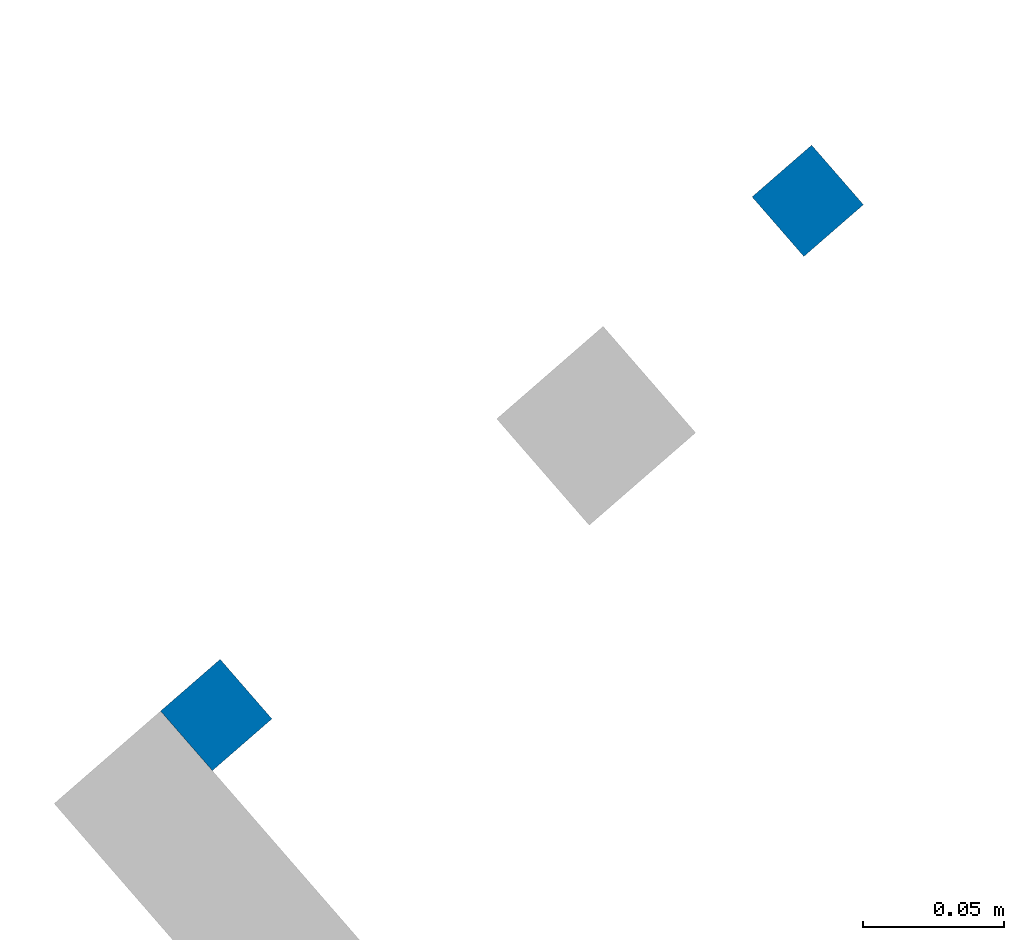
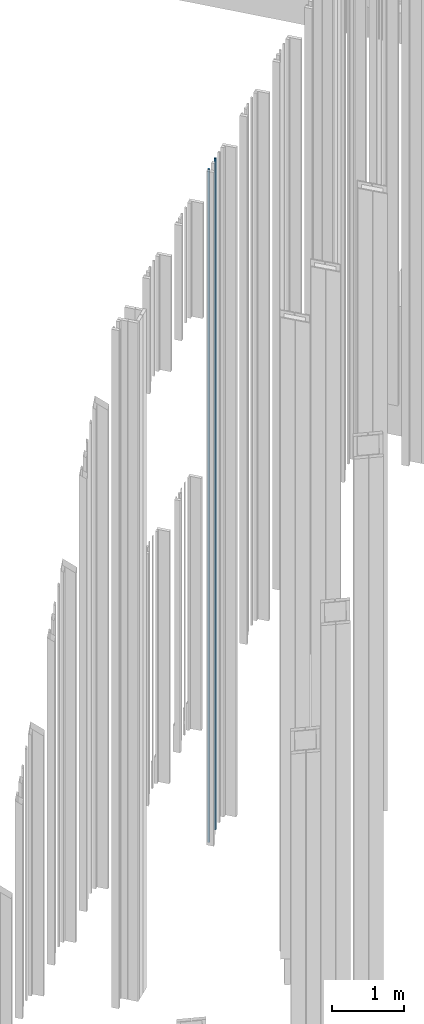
# One storey, part 259 of 390: 2 walls.
"""IFC2X3 building model written with IfcOpenShell, lengths in millimetres."""

import ifcopenshell
import ifcopenshell.guid

model = None  # the IFC model being written
_history = None  # IfcOwnerHistory: only IFC2X3 demands one
_inside = {}  # id of a spatial element -> (the spatial element, [elements in it])
_under = {}  # id of a project, library or spatial element -> (it, [spatial elements below it])
_declared = {}  # id of a project -> (the project, [libraries it declares])
_typed = {}  # id of a type object -> (the type object, [elements of that type])
_made_of = {}  # id of a material, layer set ... -> (it, [elements and type objects made of it])


def new_model(schema):
    """Start an empty IFC model of exactly this schema.

    Asked for "IFC4X3", IfcOpenShell would pick the latest addendum, in which some entities
    have other attributes; the version numbers below select the first issue.
    IFC2X3 requires an IfcOwnerHistory on every rooted entity: one is made here for all.
    """
    global model, _history
    if schema == "IFC4X3":
        model = ifcopenshell.file(schema_version=(4, 3, 0, 0))
    else:
        model = ifcopenshell.file(schema=schema)
    _inside.clear()
    _under.clear()
    _declared.clear()
    _typed.clear()
    _made_of.clear()
    _history = None
    if model.schema == "IFC2X3":
        org = make("IfcOrganization", Name="unknown")
        user = make(
            "IfcPersonAndOrganization",
            ThePerson=make("IfcPerson", FamilyName="unknown"),
            TheOrganization=org,
        )
        app = make(
            "IfcApplication",
            ApplicationDeveloper=org,
            Version="unknown",
            ApplicationFullName="unknown",
            ApplicationIdentifier="unknown",
        )
        _history = make(
            "IfcOwnerHistory",
            OwningUser=user,
            OwningApplication=app,
            ChangeAction="ADDED",
            CreationDate=0,
        )
    return model


def make(cls, **values):
    """One entity of the class cls with the attributes given. An attribute that is None is left unset."""
    return model.create_entity(
        cls, **{name: value for name, value in values.items() if value is not None}
    )


def entity(cls, *values):
    """Any entity or typed value of the class cls, its attributes in the order of the schema. None: left unset."""
    e = model.create_entity(cls)
    for i, value in enumerate(values):
        if value is not None:
            e[i] = value
    return e


def rooted(cls, **values):
    """An entity with a GlobalId (a new one), such as an element, a storey or a relation."""
    return make(cls, GlobalId=ifcopenshell.guid.new(), OwnerHistory=_history, **values)


def si_unit(unit_type, name, prefix=None):
    """IfcSIUnit, for example si_unit("LENGTHUNIT", "METRE", prefix="MILLI")."""
    return make("IfcSIUnit", UnitType=unit_type, Prefix=prefix, Name=name)


def converted_unit(unit_type, name, factor, base, dimensions=None, offset=None):
    """IfcConversionBasedUnit, such as the inch: factor (a typed value) times the base unit."""
    return make(
        "IfcConversionBasedUnit"
        if offset is None
        else "IfcConversionBasedUnitWithOffset",
        ConversionOffset=offset,
        Dimensions=None
        if dimensions is None
        else entity("IfcDimensionalExponents", *dimensions),
        UnitType=unit_type,
        Name=name,
        ConversionFactor=make(
            "IfcMeasureWithUnit", ValueComponent=factor, UnitComponent=base
        ),
    )


def derived_unit(unit_type, elements):
    """IfcDerivedUnit: a product of units, each with its exponent."""
    return make(
        "IfcDerivedUnit",
        Elements=[
            make("IfcDerivedUnitElement", Unit=unit, Exponent=power)
            for unit, power in elements
        ],
        UnitType=unit_type,
    )


def money_unit(currency):
    """IfcMonetaryUnit."""
    return make("IfcMonetaryUnit", Currency=currency)


def assignment(units):
    """IfcUnitAssignment: the units of a project."""
    return None if units is None else make("IfcUnitAssignment", Units=units)


def point(xyz):
    """IfcCartesianPoint."""
    return None if xyz is None else make("IfcCartesianPoint", Coordinates=xyz)


def direction(xyz):
    """IfcDirection."""
    return None if xyz is None else make("IfcDirection", DirectionRatios=xyz)


def frame(location, z_axis=None, x_axis=None):
    """IfcAxis2Placement3D, a coordinate frame: its origin and axes. An axis left out is left unset."""
    return make(
        "IfcAxis2Placement3D",
        Location=point(location),
        Axis=direction(z_axis),
        RefDirection=direction(x_axis),
    )


def origin_with_axes():
    """The frame at (0, 0, 0) with the z axis (0, 0, 1) and the x axis (1, 0, 0) written out."""
    return frame((0.0, 0.0, 0.0), z_axis=(0.0, 0.0, 1.0), x_axis=(1.0, 0.0, 0.0))


def place(relative_to, where):
    """IfcLocalPlacement: puts the frame where relative to a parent placement (None: the world)."""
    return make(
        "IfcLocalPlacement", PlacementRelTo=relative_to, RelativePlacement=where
    )


def context(
    kind, dimensions, precision=None, world=None, true_north=None, identifier=None
):
    """IfcGeometricRepresentationContext, for example the 3D "Model" context."""
    return make(
        "IfcGeometricRepresentationContext",
        ContextIdentifier=identifier,
        ContextType=kind,
        CoordinateSpaceDimension=dimensions,
        Precision=precision,
        WorldCoordinateSystem=world,
        TrueNorth=true_north,
    )


def subcontext(parent, identifier, kind, view, scale=None):
    """IfcGeometricRepresentationSubContext, for example "Body" below "Model"."""
    return make(
        "IfcGeometricRepresentationSubContext",
        ContextIdentifier=identifier,
        ContextType=kind,
        ParentContext=parent,
        TargetScale=scale,
        TargetView=view,
    )


def project(units=None, contexts=None):
    """IfcProject with its units and contexts."""
    return rooted(
        "IfcProject",
        Name="project",
        RepresentationContexts=contexts,
        UnitsInContext=assignment(units),
    )


def spatial(cls, under=None, at=None, **own):
    """A site, building, storey or space (cls), placed at a placement, below another one or the project."""
    s = rooted(cls, ObjectPlacement=at, **own)
    if under is not None:
        _under.setdefault(under.id(), (under, []))[1].append(s)
    return s


def faces_of(points, faces, orient=None, outer=None):
    """IfcFace entities. A face is a list of loops; a loop is a list of indices into points, from 0.

    orient and outer hold one flag for each loop. By default every Orientation is true, the
    first loop of a face is its IfcFaceOuterBound and the others are IfcFaceBound.
    """
    made = []
    for i, loops in enumerate(faces):
        bounds = []
        for j, loop in enumerate(loops):
            is_outer = j == 0 if outer is None else outer[i][j]
            bounds.append(
                make(
                    "IfcFaceOuterBound" if is_outer else "IfcFaceBound",
                    Bound=make("IfcPolyLoop", Polygon=[points[k] for k in loop]),
                    Orientation=True if orient is None else orient[i][j],
                )
            )
        made.append(make("IfcFace", Bounds=bounds))
    return made


def faceted_brep(points, faces, orient=None, outer=None, voids=None):
    """IfcFacetedBrep: a solid bounded by flat faces; with voids (closed shells), ...WithVoids."""
    shared = [point(p) for p in points]
    hull = make("IfcClosedShell", CfsFaces=faces_of(shared, faces, orient, outer))
    if voids is None:
        return make("IfcFacetedBrep", Outer=hull)
    return make(
        "IfcFacetedBrepWithVoids",
        Outer=hull,
        Voids=[
            make(cls, CfsFaces=faces_of(shared, fs, o, b)) for cls, fs, o, b in voids
        ],
    )


def shape(context_of_items, identifier, shape_type, items):
    """IfcShapeRepresentation: the items that make up one representation, for example the "Body"."""
    return make(
        "IfcShapeRepresentation",
        ContextOfItems=context_of_items,
        RepresentationIdentifier=identifier,
        RepresentationType=shape_type,
        Items=items,
    )


def material(Name=None, Category=None):
    """IfcMaterial."""
    return make("IfcMaterial", Name=Name, Category=Category)


def made_of(thing, what):
    """Note that an element or type object is made of a material, layer set ...; save() writes the relation."""
    if what is not None:
        _made_of.setdefault(what.id(), (what, []))[1].append(thing)
    return thing


def type_object(cls, material=None, **own):
    """A type object (cls), such as IfcWallType, which elements share."""
    return made_of(rooted(cls, **own), material)


def element(
    cls,
    number,
    at=None,
    inside=None,
    cuts=None,
    type_object=None,
    material=None,
    context=None,
    identifier="Body",
    shape_type=None,
    held_by="IfcProductDefinitionShape",
    body=None,
    shapes=None,
    **own,
):
    """One element of the class cls, such as IfcWall. Its Tag is "e" and its number.

    at: its placement. inside: the storey or other place that contains it. cuts: it is an
    opening in that element (IfcRelVoidsElement). A single representation is given by context,
    identifier, shape_type and body (its items); several are given by shapes. held_by: the class
    of the entity that holds the representations. save() writes the other relations.
    """
    e = rooted(cls, Tag="e%d" % number, ObjectPlacement=at, **own)
    if body is not None:
        shapes = [shape(context, identifier, shape_type, body)]
    if shapes is not None:
        e.Representation = make(held_by, Representations=shapes)
    if inside is not None:
        _inside.setdefault(inside.id(), (inside, []))[1].append(e)
    if cuts is not None:
        rooted(
            "IfcRelVoidsElement", RelatingBuildingElement=cuts, RelatedOpeningElement=e
        )
    if type_object is not None:
        _typed.setdefault(type_object.id(), (type_object, []))[1].append(e)
    return made_of(e, material)


def aggregate(whole, parts):
    """IfcRelAggregates: a whole, such as a stair, and the parts it consists of."""
    return rooted("IfcRelAggregates", RelatingObject=whole, RelatedObjects=parts)


def save(model, path):
    """Write the relations noted so far, then the file.

    IfcRelAggregates (storeys below a building ...), IfcRelContainedInSpatialStructure (elements
    in a storey), IfcRelDefinesByType, IfcRelAssociatesMaterial and IfcRelDeclares: one each for
    every whole, place, type object, material and project.
    """
    for whole, parts in _under.values():
        aggregate(whole, parts)
    for where, things in _inside.values():
        rooted(
            "IfcRelContainedInSpatialStructure",
            RelatedElements=things,
            RelatingStructure=where,
        )
    for kind, things in _typed.values():
        rooted("IfcRelDefinesByType", RelatedObjects=things, RelatingType=kind)
    for what, things in _made_of.values():
        rooted("IfcRelAssociatesMaterial", RelatedObjects=things, RelatingMaterial=what)
    for by, libraries in _declared.values():
        rooted("IfcRelDeclares", RelatingContext=by, RelatedDefinitions=libraries)
    model.write(path)


model = new_model("IFC2X3")

# Units and contexts
model_context = context("Model", 3, precision=1e-05, world=origin_with_axes(), true_north=direction((0.0, 1.0)))
body_context = subcontext(model_context, "Body", "Model", "MODEL_VIEW")
ifc_project = project(units=[si_unit("LENGTHUNIT", "METRE", prefix="MILLI"), si_unit("AREAUNIT", "SQUARE_METRE"), si_unit("VOLUMEUNIT", "CUBIC_METRE"), converted_unit("PLANEANGLEUNIT", "DEGREE", entity("IfcPlaneAngleMeasure", 0.0174532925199), si_unit("PLANEANGLEUNIT", "RADIAN"), dimensions=[0, 0, 0, 0, 0, 0, 0]), si_unit("SOLIDANGLEUNIT", "STERADIAN"), money_unit("EUR"), converted_unit("TIMEUNIT", "Year", entity("IfcTimeMeasure", 31556926.0), si_unit("TIMEUNIT", "SECOND"), dimensions=[0, 0, 1, 0, 0, 0, 0]), si_unit("MASSUNIT", "GRAM", prefix="KILO"), si_unit("THERMODYNAMICTEMPERATUREUNIT", "DEGREE_CELSIUS"), si_unit("LUMINOUSINTENSITYUNIT", "LUMEN"), si_unit("ENERGYUNIT", "JOULE", prefix="MEGA"), derived_unit("THERMALCONDUCTANCEUNIT", [(si_unit("POWERUNIT", "WATT"), 1), (si_unit("LENGTHUNIT", "METRE"), -1), (si_unit("THERMODYNAMICTEMPERATUREUNIT", "KELVIN"), -1)]), derived_unit("SPECIFICHEATCAPACITYUNIT", [(si_unit("ENERGYUNIT", "JOULE"), 1), (si_unit("MASSUNIT", "GRAM", prefix="KILO"), -1), (si_unit("THERMODYNAMICTEMPERATUREUNIT", "KELVIN"), -1)]), derived_unit("MASSDENSITYUNIT", [(si_unit("MASSUNIT", "GRAM", prefix="KILO"), 1), (si_unit("VOLUMEUNIT", "CUBIC_METRE"), -1)])], contexts=[model_context])

# Site, building, storey
site_placement = place(None, origin_with_axes())
site = spatial("IfcSite", under=ifc_project, at=site_placement, Name="Site", CompositionType="ELEMENT")
building_placement = place(site_placement, origin_with_axes())
building = spatial("IfcBuilding", under=site, at=building_placement, Name="Building", CompositionType="ELEMENT")
storey_placement = place(building_placement, origin_with_axes())
storey = spatial("IfcBuildingStorey", under=building, at=storey_placement, Name="1 korrus", CompositionType="ELEMENT", Elevation=0.0)

# Walls
ifc_material = material(Name="Site specified")
wall_type = type_object("IfcWallType", Name="Puitfassaadi ribistik", PredefinedType="NOTDEFINED")
wall_1_placement = place(storey_placement, frame((166128.377927, 89058.3875054, -1499.43675261), z_axis=(0.0, 0.0, 1.0), x_axis=(-0.754709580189, -0.65605902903, 0.0)))
element("IfcWall", 1, at=wall_1_placement, inside=storey, type_object=wall_type, material=ifc_material, Name="Site specified", context=body_context, shape_type="Brep", body=[
    faceted_brep([(-14.0, -14.0, 11364.4367526), (-14.0, -14.0, 0.0), (14.0, -14.0, 0.0), (14.0, -14.0, 11364.4367526), (-14.0, 14.0, 11364.4367526), (-14.0, 14.0, 0.0), (14.0, 14.0, 0.0), (14.0, 14.0, 11364.4367526)], [[[0, 1, 2, 3]], [[4, 5, 1, 0]], [[2, 1, 5, 6]], [[3, 2, 6, 7]], [[4, 0, 3, 7]], [[7, 6, 5, 4]]]),
])
wall_2_placement = place(storey_placement, frame((165918.568664, 88876.0030953, -1530.56324834), z_axis=(0.0, 0.0, 1.0), x_axis=(-0.754709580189, -0.65605902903, 0.0)))
element("IfcWall", 2, at=wall_2_placement, inside=storey, type_object=wall_type, material=ifc_material, Name="Site specified", context=body_context, shape_type="Brep", body=[
    faceted_brep([(-14.0, -14.0, 11395.5632483), (-14.0, -14.0, 0.0), (14.0, -14.0, 0.0), (14.0, -14.0, 11395.5632483), (-14.0, 14.0, 11395.5632483), (-14.0, 14.0, 0.0), (14.0, 14.0, 0.0), (14.0, 14.0, 11395.5632483)], [[[0, 1, 2, 3]], [[4, 5, 1, 0]], [[2, 1, 5, 6]], [[3, 2, 6, 7]], [[4, 0, 3, 7]], [[7, 6, 5, 4]]]),
])

save(model, "model.ifc")
